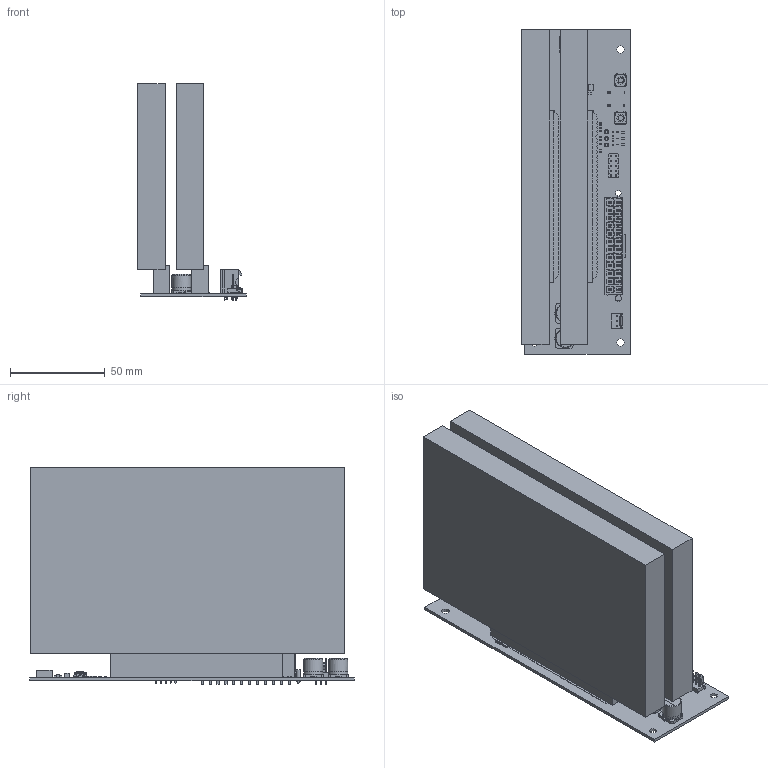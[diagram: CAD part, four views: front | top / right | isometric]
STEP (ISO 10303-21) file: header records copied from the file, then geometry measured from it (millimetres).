
FILE_DESCRIPTION(/* description */ ('PCB Design'),/* implementation_level */ '2;1');
FILE_NAME(/* name */ 'R10_10_2022-01-18',/* time_stamp */ '2022-02-14T09:48:21+03:00',/* author */ (''),/* organization */ (''),/* preprocessor_version */ 'ST-DEVELOPER v16',/* originating_system */ 'allegro_17.2S068',/* authorisation */ '');
FILE_SCHEMA (('AUTOMOTIVE_DESIGN { 1 0 10303 214 3 1 1 }'));
Products named in the file (70): R10_10_2022-01-18; BOARD_OUTLINE; COMPONENTS; SC-70-6; QFN50P500X500X80-32EP310; CON-PCIE-X16-PCB-STD; CON_ATX24_44206-0007; CC1206; CC0603; CAP_AE_G; IHLP3232; CC1210; ST1S41PUR; LITEON-LED0603; CC0402; L0603; OSCCC210P320X250X85-6N; R0402; KSC341JLFS; HDR_1X3_640456-3; HD2X5; FFB2222A; QFN50P500X500X90; COMPOUND; COMPOUND001; ASSEMBLY; Extrude001; Extrude002; Extrude; 標準品Φ10 SIZE CODE G; 標準品ケースΦ10x9.3L SIDE CODE
 G; 標準品座版Φ10 SIZE CODE G; 標準品リード線Φ10 SIZE CODE 
G改; product; Cube; LED0603; LTST-S270GKT; OSCCC210P320X250X85N; Cube003; Document ...
Assembly tree (124 placements, depth 5):
  R10_10_2022-01-18
    BOARD_OUTLINE
    COMPONENTS
      SC-70-6  x3
        SC-70-6
          FFB2222A
      QFN50P500X500X80-32EP310
        QFN50P500X500X90
      CON-PCIE-X16-PCB-STD  x2
      CON_ATX24_44206-0007
        CON_ATX24_44206-0007
          COMPOUND
          COMPOUND001
      CC1206
        ASSEMBLY
          Extrude001
          Extrude002
          Extrude
      CC0603  x3
        ASSEMBLY
          Extrude001
          Extrude002
          Extrude
      CAP_AE_G  x2
        標準品Φ10 SIZE CODE G
          標準品ケースΦ10x9.3L SIDE CODE
 G
          標準品座版Φ10 SIZE CODE G
          標準品リード線Φ10 SIZE CODE 
G改  x2
      IHLP3232
        product
      CC1210  x3
        ASSEMBLY
          Extrude001
          Extrude002
          Extrude
      ST1S41PUR
        ST1S41PUR
          Cube
      LITEON-LED0603  x3
        LED0603
          LTST-S270GKT
      CC0402  x11
        ASSEMBLY
          Extrude
          Extrude001
          Extrude002
      L0603  x2
        ASSEMBLY
          Extrude001
          Extrude002
          Extrude
      OSCCC210P320X250X85-6N
        OSCCC210P320X250X85N
          Cube003
      R0402  x33
        Document
      KSC341JLFS  x2
        KSC341JLFS
          _KSC3_body
          _KSC3_button
Bounding box: 57.4 x 171.45 x 114.72 mm (x, y, z)
Volume: 6204.8 mm3; surface area: 126342.6 mm2
Topology: 284 solids, 291 shells, 4431 faces, 17456 edges, 31333 vertices
Faces by surface type: plane 2799, cylinder 1274, bspline 330, cone 14, sphere 8, torus 6
Full cylindrical faces by diameter (mm): 0.408 x1, 1.1 x4, 1.2 x4, 1.5 x2, 10 x4
Entity records: 176084 total; most frequent: CARTESIAN_POINT 44574, DIRECTION 17567, ORIENTED_EDGE 14062, VECTOR 12816, LINE 12816, EDGE_CURVE 7410, VERTEX_POINT 5375, AXIS2_PLACEMENT_3D 5065
